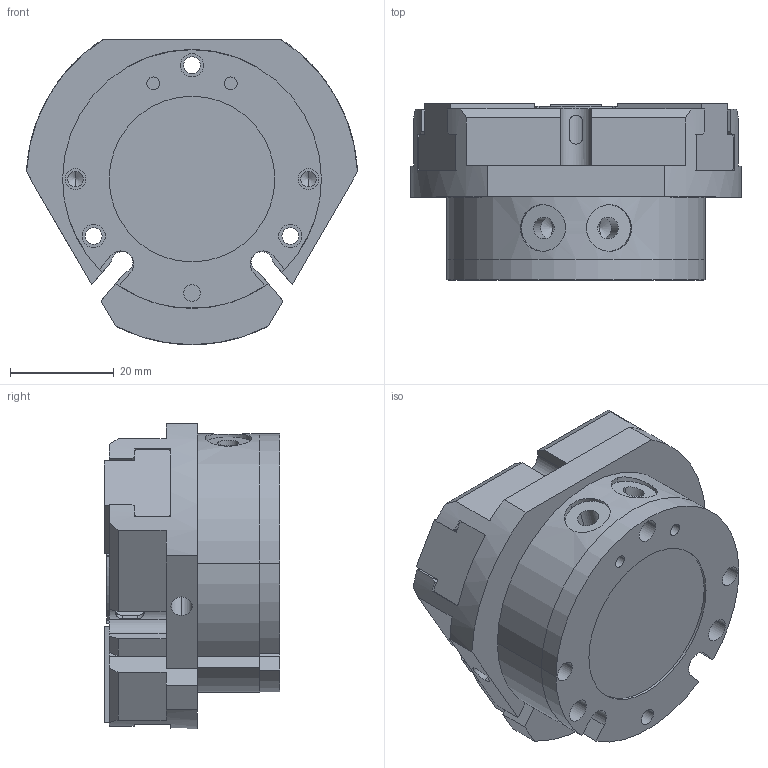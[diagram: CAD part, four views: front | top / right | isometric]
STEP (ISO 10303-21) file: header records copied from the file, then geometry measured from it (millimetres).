
FILE_DESCRIPTION (( 'STEP AP214' ), '1' );
FILE_NAME ('FCT-50A-1.STEP', '2020-07-07T10:43:10', ( '' ), ( '' ), 'SwSTEP 2.0', 'SolidWorks 2016', '' );
FILE_SCHEMA (( 'AUTOMOTIVE_DESIGN' ));
Length unit declared in the file: millimetre
Products named in the file (5): NAUO51; NAUO11; NAUO21; NAUO41; FCT-50A-1
Assembly tree (6 placements, depth 2):
  FCT-50A-1
    NAUO11
    NAUO21
    NAUO41
    NAUO51  x3
Bounding box: 63.94 x 34 x 59 mm (x, y, z)
Volume: 69889.7 mm3; surface area: 27429.8 mm2
Topology: 6 solids, 6 shells, 349 faces, 894 edges, 565 vertices
Faces by surface type: plane 169, cylinder 128, cone 52
Entity records: 9002 total; most frequent: CARTESIAN_POINT 1887, DIRECTION 1486, ORIENTED_EDGE 1404, EDGE_CURVE 702, AXIS2_PLACEMENT_3D 532, VERTEX_POINT 461, VECTOR 422, LINE 422
